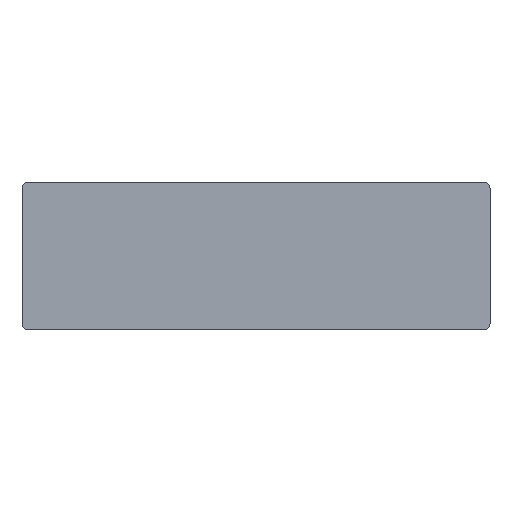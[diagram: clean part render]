
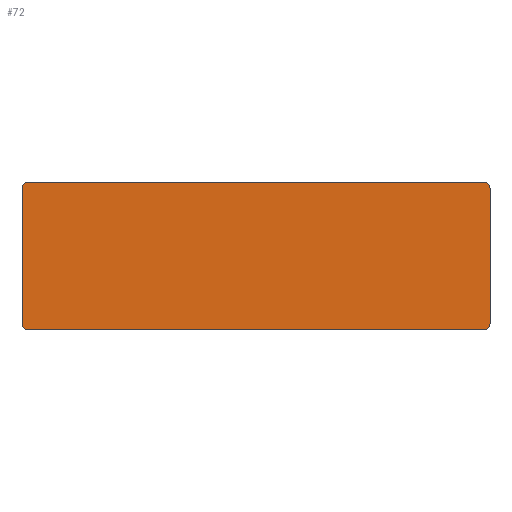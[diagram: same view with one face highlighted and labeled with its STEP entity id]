
A CAD part, front view. The second image highlights one B-rep face of the part: STEP entity #72.
In plain terms, the highlighted planar face has unit normal (0, -1, 0).
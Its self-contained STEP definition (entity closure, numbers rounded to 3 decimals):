
#72=ADVANCED_FACE('',(#1031),#1032,.F.);
#1031=FACE_OUTER_BOUND('',#2985,.T.);
#1032=PLANE('',#2986);
#2985=EDGE_LOOP('',(#5069,#5070,#5071,#5072,#5073,#5074,#5075,#5076));
#2986=AXIS2_PLACEMENT_3D('',#5077,#5078,#5079);
#5069=ORIENTED_EDGE('',*,*,#12824,.F.);
#5070=ORIENTED_EDGE('',*,*,#12825,.T.);
#5071=ORIENTED_EDGE('',*,*,#12826,.F.);
#5072=ORIENTED_EDGE('',*,*,#12827,.T.);
#5073=ORIENTED_EDGE('',*,*,#12828,.F.);
#5074=ORIENTED_EDGE('',*,*,#12829,.T.);
#5075=ORIENTED_EDGE('',*,*,#12830,.F.);
#5076=ORIENTED_EDGE('',*,*,#12831,.T.);
#5077=CARTESIAN_POINT('',(0.0,0.0,0.0));
#5078=DIRECTION('',(0.0,1.0,0.0));
#5079=DIRECTION('',(1.0,0.0,-0.0));
#12824=EDGE_CURVE('',#15442,#15443,#15444,.T.);
#12825=EDGE_CURVE('',#15442,#15445,#15446,.T.);
#12826=EDGE_CURVE('',#15447,#15445,#15448,.T.);
#12827=EDGE_CURVE('',#15447,#15449,#15450,.T.);
#12828=EDGE_CURVE('',#15451,#15449,#15452,.T.);
#12829=EDGE_CURVE('',#15451,#15453,#15454,.T.);
#12830=EDGE_CURVE('',#15455,#15453,#15456,.T.);
#12831=EDGE_CURVE('',#15455,#15443,#15457,.T.);
#15442=VERTEX_POINT('',#19691);
#15443=VERTEX_POINT('',#19692);
#15444=LINE('',#19693,#19694);
#15445=VERTEX_POINT('',#19695);
#15446=CIRCLE('',#19696,2.0);
#15447=VERTEX_POINT('',#19697);
#15448=LINE('',#19698,#19699);
#15449=VERTEX_POINT('',#19700);
#15450=CIRCLE('',#19701,2.0);
#15451=VERTEX_POINT('',#19702);
#15452=LINE('',#19703,#19704);
#15453=VERTEX_POINT('',#19705);
#15454=CIRCLE('',#19706,2.0);
#15455=VERTEX_POINT('',#19707);
#15456=LINE('',#19708,#19709);
#15457=CIRCLE('',#19710,2.0);
#19691=CARTESIAN_POINT('',(0.0,0.0,-46.0));
#19692=CARTESIAN_POINT('',(0.0,0.0,-2.0));
#19693=CARTESIAN_POINT('',(0.0,0.0,-46.0));
#19694=VECTOR('',#26088,44.0);
#19695=CARTESIAN_POINT('',(2.0,0.0,-48.0));
#19696=AXIS2_PLACEMENT_3D('',#26089,#26090,#26091);
#19697=CARTESIAN_POINT('',(150.0,0.0,-48.0));
#19698=CARTESIAN_POINT('',(150.0,0.0,-48.0));
#19699=VECTOR('',#26092,148.0);
#19700=CARTESIAN_POINT('',(152.0,0.0,-46.0));
#19701=AXIS2_PLACEMENT_3D('',#26093,#26094,#26095);
#19702=CARTESIAN_POINT('',(152.0,0.0,-2.0));
#19703=CARTESIAN_POINT('',(152.0,0.0,-2.0));
#19704=VECTOR('',#26096,44.0);
#19705=CARTESIAN_POINT('',(150.0,0.0,0.0));
#19706=AXIS2_PLACEMENT_3D('',#26097,#26098,#26099);
#19707=CARTESIAN_POINT('',(2.0,0.0,0.0));
#19708=CARTESIAN_POINT('',(2.0,0.0,0.0));
#19709=VECTOR('',#26100,148.0);
#19710=AXIS2_PLACEMENT_3D('',#26101,#26102,#26103);
#26088=DIRECTION('',(0.0,0.0,1.0));
#26089=CARTESIAN_POINT('',(2.0,0.0,-46.0));
#26090=DIRECTION('',(0.0,-1.0,0.0));
#26091=DIRECTION('',(-1.0,0.0,0.0));
#26092=DIRECTION('',(-1.0,0.0,0.0));
#26093=CARTESIAN_POINT('',(150.0,0.0,-46.0));
#26094=DIRECTION('',(0.0,-1.0,0.0));
#26095=DIRECTION('',(0.0,0.0,-1.0));
#26096=DIRECTION('',(0.0,0.0,-1.0));
#26097=CARTESIAN_POINT('',(150.0,0.0,-2.0));
#26098=DIRECTION('',(0.0,-1.0,0.0));
#26099=DIRECTION('',(1.0,0.0,0.0));
#26100=DIRECTION('',(1.0,0.0,0.0));
#26101=CARTESIAN_POINT('',(2.0,0.0,-2.0));
#26102=DIRECTION('',(0.0,-1.0,0.0));
#26103=DIRECTION('',(0.0,0.0,1.0));
